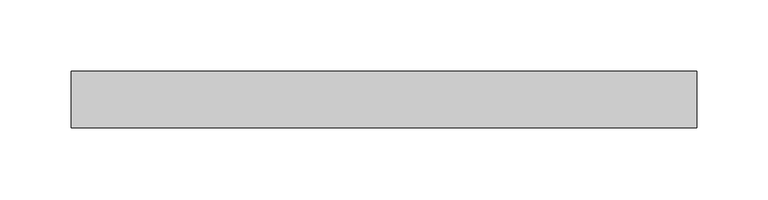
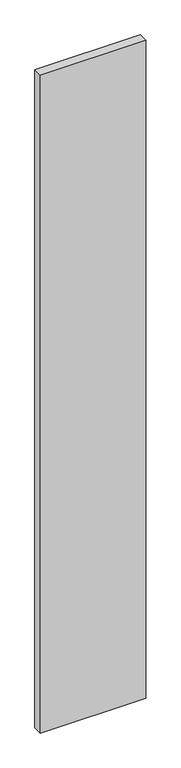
"""IFC4 building model written with IfcOpenShell, lengths in millimetres: plate geometry, Lod 200 Regolare 800 Vertical : Azuro."""

from ifc_helpers import new_model, si_unit, origin, origin_with_axes, place, context, project, spatial, polyline, outline, extrude, source, transform, mapped, element, save


def plate_c9ebe30d(model_context):
    return source(origin(), model_context, "Body", "SweptSolid", [
        extrude(outline(polyline([(220.0, -40.0), (-220.0, -40.0), (-220.0, 0.0), (220.0, 0.0), (220.0, -40.0)])), origin_with_axes(), (0.0, 0.0, 1.0), 2900.0),
    ])


if __name__ == "__main__":
    model = new_model("IFC4")
    model_context = context("Model", 3, world=origin())
    ifc_project = project(units=[si_unit("LENGTHUNIT", "METRE", prefix="MILLI")], contexts=[model_context])
    site = spatial("IfcSite", under=ifc_project)
    building = spatial("IfcBuilding", under=site)
    placement = place(None, origin())
    plate_shape = plate_c9ebe30d(model_context)
    element("IfcPlate", 1, ObjectType="Lod 200 Regolare 800 Vertical : Azuro", at=placement, inside=building, context=model_context, shape_type="MappedRepresentation", body=[
        mapped(plate_shape, transform((0.0, 0.0, 0.0), x_axis=(1.0, 0.0, 0.0), y_axis=(0.0, 1.0, 0.0), z_axis=(0.0, 0.0, 1.0))),
    ])
    save(model, "model.ifc")
